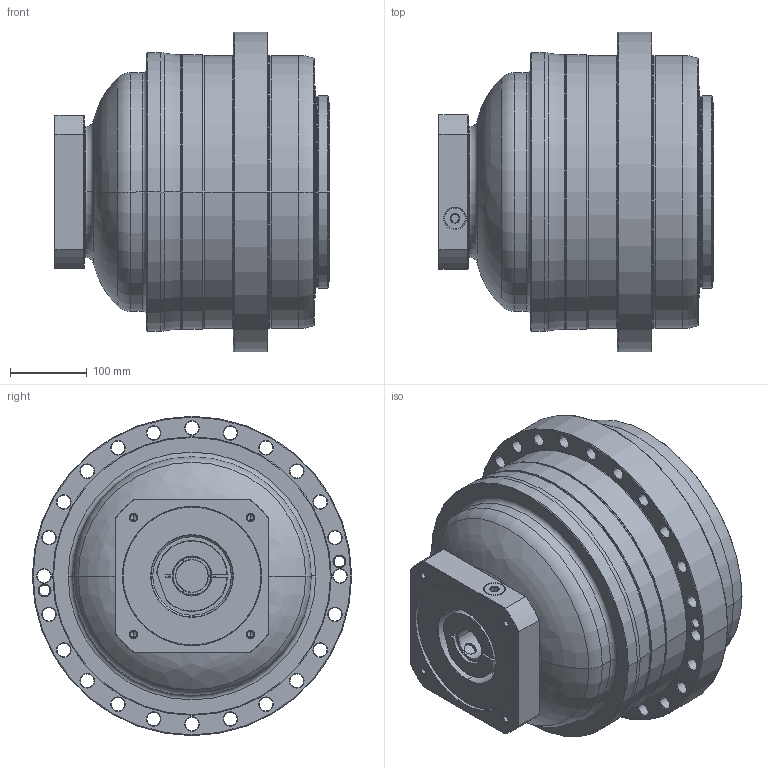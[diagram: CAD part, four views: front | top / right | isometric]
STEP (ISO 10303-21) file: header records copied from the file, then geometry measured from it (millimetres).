
FILE_DESCRIPTION((''),'2;1');
FILE_NAME('AP355_2ST_42-P0409A50201_ASM','2018-06-05T',('d01226'),(''),'PRO/ENGINEER BY PARAMETRIC TECHNOLOGY CORPORATION, 2008410','PRO/ENGINEER BY PARAMETRIC TECHNOLOGY CORPORATION, 2008410','');
FILE_SCHEMA(('CONFIG_CONTROL_DESIGN'));
Length unit declared in the file: millimetre
Products named in the file (9): P0276101003; P0357101103; P1339110101; P0503A00012; P0962102001; P1222100001; P0409A50201; 21711422019; AP355_2ST_42-P0409A50201_ASM
Assembly tree (8 placements, depth 2):
  AP355_2ST_42-P0409A50201_ASM
    P0276101003
    P0357101103
    P1339110101
    P0503A00012
    P0962102001
    P1222100001
    P0409A50201
    21711422019
Bounding box: 357.5 x 415 x 415 mm (x, y, z)
Volume: 23732140.2 mm3; surface area: 1325027.7 mm2
Topology: 9 solids, 34 shells, 670 faces, 1541 edges, 942 vertices
Faces by surface type: cylinder 274, cone 182, plane 108, torus 92, bspline 14
Entity records: 23886 total; most frequent: CARTESIAN_POINT 7851, DIRECTION 3713, ORIENTED_EDGE 2966, AXIS2_PLACEMENT_3D 1596, EDGE_CURVE 1533, VERTEX_POINT 942, CIRCLE 913, EDGE_LOOP 831
